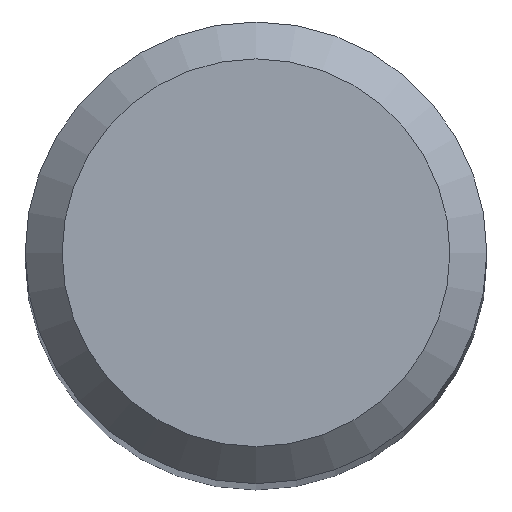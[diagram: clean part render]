
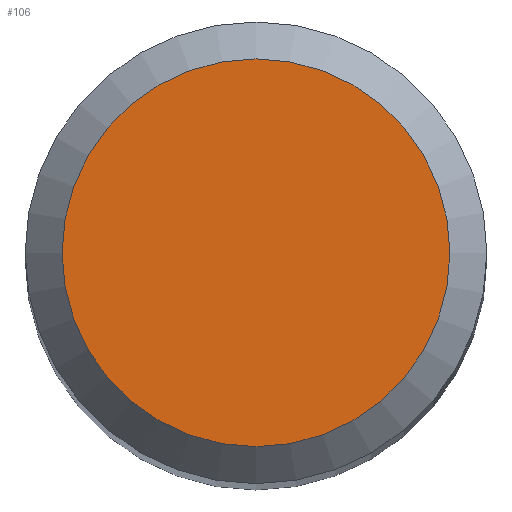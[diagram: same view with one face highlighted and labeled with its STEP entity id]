
A CAD part, top view. The second image highlights one B-rep face of the part: STEP entity #106.
In plain terms, the highlighted planar face has unit normal (0, 0, 1).
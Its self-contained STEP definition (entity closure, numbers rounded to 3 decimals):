
#99=PLANE('',#148);
#101=FACE_OUTER_BOUND('',#117,.T.);
#106=ADVANCED_FACE('',(#101),#99,.T.);
#117=EDGE_LOOP('',(#125));
#125=ORIENTED_EDGE('',*,*,#137,.T.);
#133=VERTEX_POINT('',#180);
#137=EDGE_CURVE('',#133,#133,#141,.T.);
#141=CIRCLE('',#147,10.5);
#147=AXIS2_PLACEMENT_3D('',#179,#161,#162);
#148=AXIS2_PLACEMENT_3D('',#181,#163,#164);
#161=DIRECTION('',(0.,0.,1.));
#162=DIRECTION('',(1.,0.,0.));
#163=DIRECTION('',(0.,0.,1.));
#164=DIRECTION('',(1.,0.,0.));
#179=CARTESIAN_POINT('',(0.,0.064,200.));
#180=CARTESIAN_POINT('',(10.5,0.064,200.));
#181=CARTESIAN_POINT('',(0.,0.064,200.));
